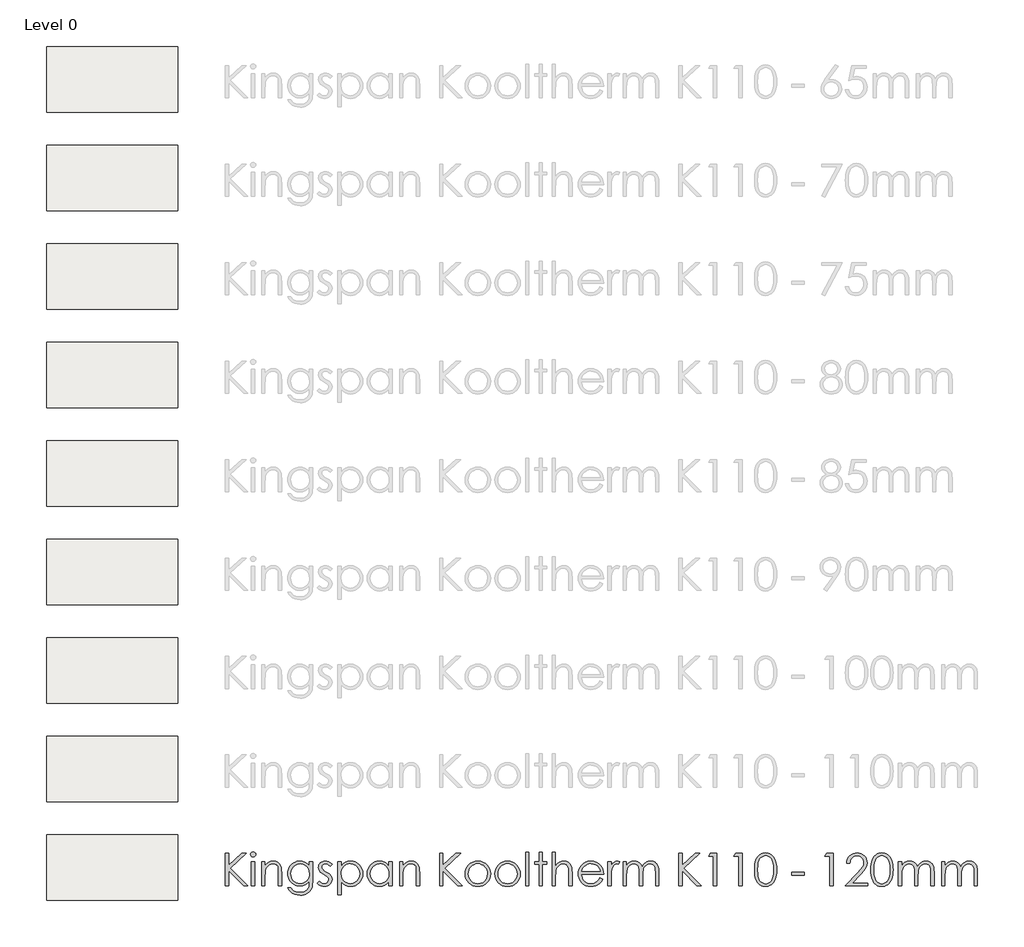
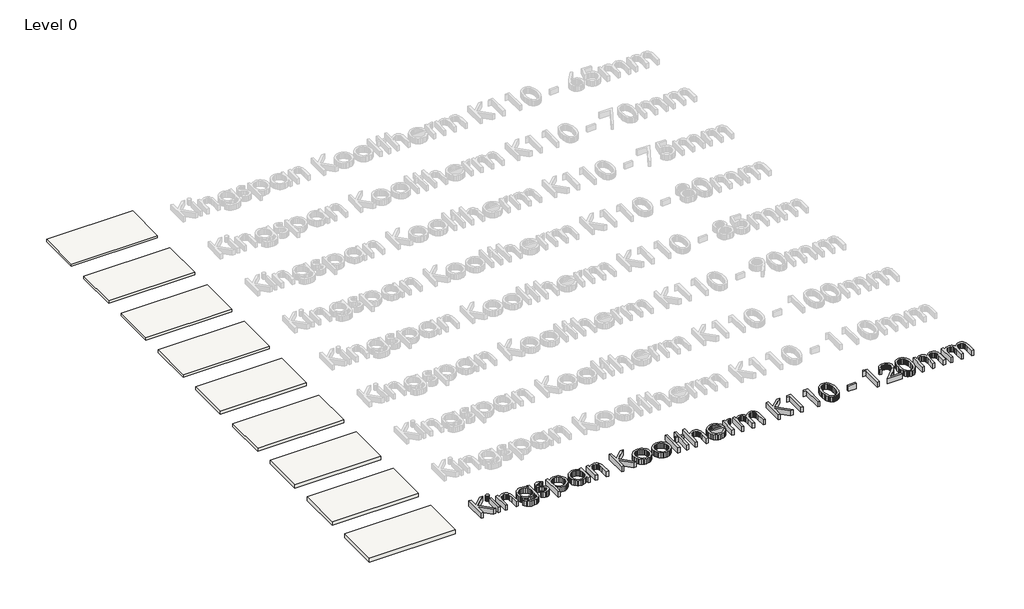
# One storey, part 1 of 9: 9 coverings, 1 proxy.
"""IFC4 building model written with IfcOpenShell, lengths in millimetres."""

from ifc_helpers import new_model, si_unit, origin, origin_with_axes, place, context, project, spatial, polyline, outline, extrude, element, save

model = new_model("IFC4")

# Units and contexts
model_context = context("Model", 3, world=origin())
ifc_project = project(units=[si_unit("LENGTHUNIT", "METRE", prefix="MILLI")], contexts=[model_context])

# Site, building, storey
site = spatial("IfcSite", under=ifc_project)
building = spatial("IfcBuilding", under=site)
storey = spatial("IfcBuildingStorey", under=building, Name="Level 0", Elevation=0.0)

# Proxy
placement = place(None, origin())
element("IfcBuildingElementProxy", 1, Name="600mm KI_CenturyGothic", ObjectType="600mm KI_CenturyGothic", at=placement, inside=storey, context=model_context, shape_type="SweptSolid", body=[
    extrude(outline(polyline([(-3852.2663848, -8499.1034017), (-3792.944575, -8499.1034017), (-3792.944575, -8718.316027), (-3555.1938841, -8499.1034017), (-3471.6181051, -8499.1034017), (-3760.9664119, -8766.0515459), (-3441.9572002, -9092.3214999), (-3520.8984627, -9092.3214999), (-3792.944575, -8814.0960325), (-3792.944575, -9092.3214999), (-3852.2663848, -9092.3214999), (-3852.2663848, -8499.1034017)])), origin_with_axes(), (0.0, 0.0, 1.0), 150.0),
    extrude(outline(polyline([(-3348.1854852, -8469.4424967), (-3329.145347, -8472.7252792), (-3313.1176445, -8482.5736265), (-3302.226531, -8497.0178693), (-3298.5961598, -8514.088338), (-3302.226531, -8530.9270809), (-3313.1176445, -8545.2940817), (-3329.145347, -8555.142429), (-3348.1854852, -8558.4252115), (-3366.9938975, -8555.142429), (-3382.9443581, -8545.2940817), (-3393.8354717, -8530.9270809), (-3397.4658428, -8514.088338), (-3393.8354717, -8497.0178693), (-3382.9443581, -8482.5736265), (-3366.9938975, -8472.7252792), (-3348.1854852, -8469.4424967)])), origin_with_axes(), (0.0, 0.0, 1.0), 150.0),
    extrude(outline(polyline([(-3377.6919062, -8647.4079262), (-3318.3700964, -8647.4079262), (-3318.3700964, -9092.3214999), (-3377.6919062, -9092.3214999), (-3377.6919062, -8647.4079262)])), origin_with_axes(), (0.0, 0.0, 1.0), 150.0),
    extrude(outline(polyline([(-3189.8395084, -8647.4079262), (-3130.5176986, -8647.4079262), (-3130.5176986, -8726.5036726), (-3096.9946967, -8686.9944204), (-3060.0730495, -8659.303185), (-3019.7141359, -8642.9665147), (-2975.879335, -8637.5209579), (-2953.4357238, -8639.0995901), (-2932.2955704, -8643.8354865), (-2912.4588747, -8651.7286472), (-2893.9256368, -8662.7790723), (-2877.212412, -8676.5039994), (-2862.835756, -8692.4206667), (-2841.0921499, -8730.8292213), (-2833.6238199, -8755.2087086), (-2828.2892984, -8785.5551357), (-2824.0216812, -8864.1488095), (-2824.0216812, -9092.3214999), (-2883.343491, -9092.3214999), (-2883.343491, -8879.1337458), (-2883.343491, -8776.092998), (-2884.7290183, -8755.2956057), (-2889.8125035, -8737.2403023), (-2898.2849788, -8721.9270877), (-2910.1464442, -8709.355962), (-2924.7403432, -8699.5558909), (-2941.4101193, -8692.5558401), (-2980.977303, -8686.9557994), (-3005.3471351, -8689.1137461), (-3028.4038541, -8695.5875862), (-3050.1474602, -8706.3773197), (-3070.5779533, -8721.4829466), (-3088.6622225, -8739.7651482), (-3103.3671568, -8760.084606), (-3114.6927562, -8782.44132), (-3122.6390208, -8806.8352901), (-3128.5480292, -8853.9142525), (-3130.5176986, -8928.4141035), (-3130.5176986, -9092.3214999), (-3189.8395084, -9092.3214999), (-3189.8395084, -8647.4079262)])), origin_with_axes(), (0.0, 0.0, 1.0), 150.0),
    extrude(outline(polyline([(-2319.7862977, -8647.4079262), (-2260.4644879, -8647.4079262), (-2260.4644879, -8998.395301), (-2264.5196897, -9078.6496765), (-2269.588692, -9109.4499001), (-2276.6852953, -9134.0321474), (-2289.9371156, -9162.6454585), (-2307.2924139, -9187.7732271), (-2328.7511904, -9209.4154531), (-2354.3134448, -9227.5721366), (-2383.3226209, -9241.9343098), (-2415.122162, -9252.1930049), (-2449.7120682, -9258.348222), (-2487.0923395, -9260.3999611), (-2541.0458345, -9256.3833802), (-2589.206184, -9244.3336376), (-2630.260275, -9225.5059147), (-2662.8949946, -9201.1553932), (-2690.2000204, -9167.8061856), (-2715.2650299, -9121.9824048), (-2655.94322, -9121.9824048), (-2642.4355358, -9143.151524), (-2627.0933555, -9161.3951046), (-2609.9166791, -9176.7131468), (-2590.9055067, -9189.1056506), (-2569.7894914, -9198.6691682), (-2546.2982864, -9205.5002523), (-2492.1903075, -9210.9651195), (-2438.5071593, -9205.6354257), (-2415.083541, -9198.9733084), (-2393.93856, -9189.6463441), (-2359.6624492, -9165.6047903), (-2336.8567664, -9136.1176798), (-2329.3884364, -9117.4782342), (-2324.0539149, -9093.7697863), (-2319.7862977, -9031.1458835), (-2319.7862977, -9008.4367532), (-2354.757586, -9044.2190818), (-2396.6420279, -9070.6165148), (-2443.392712, -9086.8952536), (-2492.9627269, -9092.3214999), (-2522.4063889, -9090.4242447), (-2550.9521133, -9084.7324793), (-2578.5999001, -9075.2462036), (-2605.3497494, -9061.9654175), (-2630.1540674, -9045.4742634), (-2651.9652601, -9026.3568832), (-2670.7833277, -9004.6132772), (-2686.6082702, -8980.2434451), (-2699.1456025, -8953.9280817), (-2708.1008399, -8926.3478816), (-2713.4739824, -8897.5028447), (-2715.2650299, -8867.392971), (-2713.3967404, -8837.1044753), (-2707.7918722, -8807.8780563), (-2698.4504251, -8779.713714), (-2685.3723991, -8752.6114483), (-2668.9971079, -8727.4257483), (-2649.7638648, -8705.0111029), (-2627.67267, -8685.367512), (-2602.7235235, -8668.4949758), (-2575.9833294, -8654.943843), (-2548.5189922, -8645.2644624), (-2520.3305117, -8639.456834), (-2491.4178881, -8637.5209579), (-2444.5320306, -8642.4644421), (-2400.8903346, -8657.2948945), (-2359.6045177, -8683.8661218), (-2319.7862977, -8724.0319306), (-2319.7862977, -8647.4079262)]), holes=[polyline([(-2484.1571458, -8686.9557994), (-2529.0154023, -8692.9806707), (-2570.5908765, -8711.0552847), (-2606.2187212, -8739.7699758), (-2633.2340897, -8777.7150788), (-2650.2659375, -8821.9940208), (-2655.94322, -8869.7102292), (-2653.0080263, -8905.6229036), (-2644.2024452, -8938.2817613), (-2629.5264766, -8967.6868023), (-2608.9801206, -8993.8380266), (-2583.7606272, -9015.296803), (-2555.0652466, -9030.6245004), (-2522.8939786, -9039.8211189), (-2487.2468234, -9042.8866584), (-2451.3244937, -9039.845257), (-2419.1001219, -9030.7210528), (-2390.573708, -9015.5140459), (-2365.7452519, -8994.2242363), (-2345.6382095, -8967.9812872), (-2331.2760363, -8937.9148621), (-2322.6587323, -8904.024961), (-2319.7862977, -8866.3115838), (-2325.0773706, -8817.6105407), (-2340.9505892, -8774.3936754), (-2366.4983608, -8738.1672056), (-2400.8130926, -8710.4373492), (-2440.9982119, -8692.8261869), (-2484.1571458, -8686.9557994)])]), origin_with_axes(), (0.0, 0.0, 1.0), 150.0),
    extrude(outline(polyline([(-1904.5336289, -8698.6965743), (-1940.9918246, -8736.390641), (-1962.9575012, -8714.7628978), (-1984.6721416, -8699.3145098), (-2006.1357456, -8690.045477), (-2027.3483133, -8686.9557994), (-2052.181597, -8691.6289368), (-2073.2300256, -8705.6483489), (-2087.5970264, -8725.8857371), (-2092.3860267, -8749.212803), (-2088.4466878, -8770.7633042), (-2076.628671, -8791.2324183), (-2052.0657341, -8813.400855), (-2010.2006027, -8839.122421), (-1958.3326401, -8871.9888664), (-1939.8428507, -8887.8138088), (-1926.315856, -8903.2332311), (-1909.9791857, -8935.9065716), (-1904.5336289, -8972.4420092), (-1906.9474396, -8998.5884059), (-1914.1888714, -9022.6492701), (-1926.2579245, -9044.624602), (-1943.1545989, -9064.5144015), (-1963.6719892, -9081.0055557), (-1986.6031901, -9092.7849515), (-2011.9482016, -9099.852589), (-2039.7070237, -9102.2084682), (-2077.4397114, -9098.3270607), (-2113.3958344, -9086.6828383), (-2145.4512394, -9068.2027042), (-2171.4817731, -9043.8135617), (-2135.7959969, -9003.3387852), (-2114.0041146, -9024.9665283), (-2091.5749863, -9040.4149163), (-2068.5086121, -9049.6839491), (-2044.8049918, -9052.7736267), (-2013.637869, -9047.1349651), (-1987.4914724, -9030.2189802), (-1969.7644472, -9005.6560434), (-1963.8554388, -8977.0765256), (-1967.7561567, -8953.2860081), (-1979.4583106, -8932.2762005), (-2005.0253927, -8910.5712154), (-2050.2119275, -8883.7682622), (-2099.762632, -8853.1032121), (-2117.441381, -8837.9444814), (-2130.3890611, -8822.9016136), (-2146.3781427, -8790.7689666), (-2151.7078365, -8754.310771), (-2149.5305794, -8730.2643896), (-2142.9988078, -8708.3325063), (-2132.1125219, -8688.5151211), (-2116.8717217, -8670.812234), (-2098.309518, -8656.2473007), (-2077.4590218, -8645.8437769), (-2054.3202332, -8639.6016627), (-2028.8931521, -8637.5209579), (-1997.9481, -8641.3444339), (-1966.9064954, -8652.814862), (-1935.7683384, -8671.9322421), (-1904.5336289, -8698.6965743)])), origin_with_axes(), (0.0, 0.0, 1.0), 150.0),
    extrude(outline(polyline([(-1795.7769776, -8647.4079262), (-1736.4551678, -8647.4079262), (-1736.4551678, -8728.5119631), (-1700.9238754, -8688.2689124), (-1660.4490989, -8659.9211205), (-1614.9922173, -8643.1209986), (-1564.5146096, -8637.5209579), (-1520.0618732, -8641.7596094), (-1478.9305402, -8654.4755637), (-1441.1206107, -8675.668821), (-1406.6320845, -8705.3393811), (-1377.9077381, -8740.9768811), (-1357.3903478, -8780.070958), (-1345.0799137, -8822.6216116), (-1340.9764356, -8868.628842), (-1345.0412927, -8915.5291824), (-1357.235864, -8958.7508754), (-1377.5601494, -8998.293921), (-1406.014149, -9034.1583192), (-1440.2130179, -9063.9302594), (-1477.7719111, -9085.1959309), (-1518.6908288, -9097.9553339), (-1562.9697708, -9102.2084682), (-1612.6170277, -9096.743601), (-1658.0545988, -9080.3489992), (-1699.3211052, -9053.1019049), (-1736.4551678, -9015.07956), (-1736.4551678, -9250.5129928), (-1795.7769776, -9250.5129928), (-1795.7769776, -8647.4079262)]), holes=[polyline([(-1568.5311905, -8686.9557994), (-1602.5852307, -8690.2530647), (-1633.8392507, -8700.1448607), (-1662.2932503, -8716.6311872), (-1687.9472295, -8739.7120444), (-1709.1694525, -8767.6977647), (-1724.3281832, -8798.8986808), (-1733.4234216, -8833.3147926), (-1736.4551678, -8870.9461002), (-1731.048232, -8919.8016272), (-1714.8274246, -8963.4819442), (-1688.5265441, -9000.3263495), (-1652.8793888, -9028.6741414), (-1611.4390881, -9046.7487554), (-1567.7587711, -9052.7736267), (-1525.0632888, -9046.7101344), (-1485.0326535, -9028.5196576), (-1450.2544701, -8999.4187567), (-1423.3163435, -8960.6239924), (-1406.05277, -8915.9588407), (-1400.2982454, -8869.2467775), (-1405.9948385, -8822.3029886), (-1423.0846177, -8777.8695627), (-1449.8103289, -8739.5189395), (-1484.414718, -8710.8235589), (-1524.7157001, -8692.9227393), (-1568.5311905, -8686.9557994)])]), origin_with_axes(), (0.0, 0.0, 1.0), 150.0),
    extrude(outline(polyline([(-807.0801472, -8647.4079262), (-807.0801472, -9092.3214999), (-866.401957, -9092.3214999), (-866.401957, -9016.4699149), (-903.4780882, -9054.3184655), (-944.8797679, -9081.0441767), (-990.4525125, -9096.9173953), (-1040.0418379, -9102.2084682), (-1084.3159523, -9097.9553339), (-1125.2203871, -9085.1959309), (-1162.7551422, -9063.9302594), (-1196.9202178, -9034.1583192), (-1225.340424, -8998.293921), (-1245.6405713, -8958.7508754), (-1257.8206597, -8915.5291824), (-1261.8806892, -8868.628842), (-1257.7820388, -8822.6216116), (-1245.4860875, -8780.070958), (-1224.9928353, -8740.9768811), (-1196.3022822, -8705.3393811), (-1161.8475494, -8675.668821), (-1124.061758, -8654.4755637), (-1082.9449079, -8641.7596094), (-1038.4969991, -8637.5209579), (-987.7490446, -8643.1209986), (-942.0990581, -8659.9211205), (-921.2051134, -8672.6081091), (-901.6242816, -8688.2689124), (-866.401957, -8728.5119631), (-866.401957, -8647.4079262), (-807.0801472, -8647.4079262)]), holes=[polyline([(-1034.3259343, -8686.9557994), (-1078.1414247, -8692.9227393), (-1118.4424068, -8710.8235589), (-1153.0467959, -8739.5189395), (-1179.7725071, -8777.8695627), (-1196.8622863, -8822.3029886), (-1202.5588794, -8869.2467775), (-1196.8043548, -8915.9588407), (-1179.5407813, -8960.6239924), (-1152.6026548, -8999.4187567), (-1117.8244713, -9028.5196576), (-1077.6779731, -9046.7101344), (-1034.6349021, -9052.7736267), (-991.0125165, -9046.7487554), (-949.7460102, -9028.6741414), (-914.2726493, -9000.3263495), (-888.0297002, -8963.4819442), (-871.8088928, -8919.8016272), (-866.401957, -8870.9461002), (-869.4337032, -8833.3147926), (-878.5289416, -8798.8986808), (-893.6876723, -8767.6977647), (-914.9098953, -8739.7120444), (-940.5638746, -8716.6311872), (-969.0178742, -8700.1448607), (-1000.2718941, -8690.2530647), (-1034.3259343, -8686.9557994)])]), origin_with_axes(), (0.0, 0.0, 1.0), 150.0),
    extrude(outline(polyline([(-668.662591, -8647.4079262), (-609.3407811, -8647.4079262), (-609.3407811, -8726.5036726), (-575.8177792, -8686.9944204), (-538.896132, -8659.303185), (-498.5372184, -8642.9665147), (-454.7024175, -8637.5209579), (-432.2588064, -8639.0995901), (-411.1186529, -8643.8354865), (-391.2819572, -8651.7286472), (-372.7487193, -8662.7790723), (-356.0354946, -8676.5039994), (-341.6588385, -8692.4206667), (-319.9152324, -8730.8292213), (-312.4469024, -8755.2087086), (-307.1123809, -8785.5551357), (-302.8447637, -8864.1488095), (-302.8447637, -9092.3214999), (-362.1665735, -9092.3214999), (-362.1665735, -8879.1337458), (-362.1665735, -8776.092998), (-363.5521008, -8755.2956057), (-368.635586, -8737.2403023), (-377.1080613, -8721.9270877), (-388.9695267, -8709.355962), (-403.5634257, -8699.5558909), (-420.2332018, -8692.5558401), (-459.8003855, -8686.9557994), (-484.1702176, -8689.1137461), (-507.2269366, -8695.5875862), (-528.9705427, -8706.3773197), (-549.4010358, -8721.4829466), (-567.485305, -8739.7651482), (-582.1902393, -8760.084606), (-593.5158387, -8782.44132), (-601.4621033, -8806.8352901), (-607.3711117, -8853.9142525), (-609.3407811, -8928.4141035), (-609.3407811, -9092.3214999), (-668.662591, -9092.3214999), (-668.662591, -8647.4079262)])), origin_with_axes(), (0.0, 0.0, 1.0), 150.0),
    extrude(outline(polyline([(62.9730635, -8499.1034017), (122.2948734, -8499.1034017), (122.2948734, -8718.316027), (360.0455643, -8499.1034017), (443.6213432, -8499.1034017), (154.2730365, -8766.0515459), (473.2822481, -9092.3214999), (394.3409856, -9092.3214999), (122.2948734, -8814.0960325), (122.2948734, -9092.3214999), (62.9730635, -9092.3214999), (62.9730635, -8499.1034017)])), origin_with_axes(), (0.0, 0.0, 1.0), 150.0),
    extrude(outline(polyline([(760.1588128, -8637.5209579), (809.4681362, -8642.1458191), (854.3553585, -8656.0204025), (894.8204798, -8679.1447083), (930.8635, -8711.5187363), (957.7630055, -8746.7507161), (976.9769381, -8785.091684), (988.5052976, -8826.54164), (992.3480841, -8871.1005841), (988.283227, -8915.9153921), (976.0886558, -8957.8239721), (955.7643703, -8996.8263241), (927.3103707, -9032.9224481), (892.4742558, -9063.2350819), (853.0036246, -9084.8869632), (808.8984769, -9097.8780919), (760.1588128, -9102.2084682), (711.2839754, -9097.8780919), (667.0822753, -9084.8869632), (627.5537126, -9063.2350819), (592.6982872, -9032.9224481), (564.2442876, -8996.8263241), (543.9200022, -8957.8239721), (531.7254309, -8915.9153921), (527.6605738, -8871.1005841), (531.5033603, -8826.7347449), (543.0317198, -8785.4006518), (562.2456524, -8747.0983049), (589.145158, -8711.8277041), (625.2074886, -8679.3185026), (665.7305413, -8656.0976445), (710.7143161, -8642.1651295), (760.1588128, -8637.5209579)]), holes=[polyline([(760.004329, -8686.9557994), (725.7282181, -8690.3303067), (693.9624704, -8700.4538284), (664.7070856, -8717.3263647), (637.962064, -8740.9479154), (615.6584538, -8769.3584664), (599.7273037, -8800.5980035), (590.1686137, -8834.6665266), (586.9823836, -8871.5640357), (592.7948396, -8919.2995546), (610.2322075, -8963.6364281), (637.5758543, -9001.4270471), (673.1071466, -9029.5238028), (714.6439998, -9046.9611707), (760.004329, -9052.7736267), (805.3646581, -9046.9611707), (846.9015113, -9029.5238028), (882.4328037, -9001.4270471), (909.7764504, -8963.6364281), (927.2138183, -8919.2995546), (933.0262743, -8871.5640357), (929.8255614, -8834.6665266), (920.2234227, -8800.5980035), (904.2198583, -8769.3584664), (881.8148681, -8740.9479154), (854.9974321, -8717.3263647), (825.7565303, -8700.4538284), (794.0921625, -8690.3303067), (760.004329, -8686.9557994)])]), origin_with_axes(), (0.0, 0.0, 1.0), 150.0),
    extrude(outline(polyline([(1303.9420695, -8637.5209579), (1353.2513929, -8642.1458191), (1398.1386152, -8656.0204025), (1438.6037365, -8679.1447083), (1474.6467567, -8711.5187363), (1501.5462622, -8746.7507161), (1520.7601948, -8785.091684), (1532.2885543, -8826.54164), (1536.1313408, -8871.1005841), (1532.0664837, -8915.9153921), (1519.8719125, -8957.8239721), (1499.547627, -8996.8263241), (1471.0936274, -9032.9224481), (1436.2575126, -9063.2350819), (1396.7868813, -9084.8869632), (1352.6817336, -9097.8780919), (1303.9420695, -9102.2084682), (1255.0672321, -9097.8780919), (1210.865532, -9084.8869632), (1171.3369693, -9063.2350819), (1136.4815439, -9032.9224481), (1108.0275443, -8996.8263241), (1087.7032589, -8957.8239721), (1075.5086876, -8915.9153921), (1071.4438305, -8871.1005841), (1075.286617, -8826.7347449), (1086.8149766, -8785.4006518), (1106.0289091, -8747.0983049), (1132.9284147, -8711.8277041), (1168.9907453, -8679.3185026), (1209.5137981, -8656.0976445), (1254.4975728, -8642.1651295), (1303.9420695, -8637.5209579)]), holes=[polyline([(1303.7875857, -8686.9557994), (1269.5114748, -8690.3303067), (1237.7457271, -8700.4538284), (1208.4903423, -8717.3263647), (1181.7453207, -8740.9479154), (1159.4417105, -8769.3584664), (1143.5105604, -8800.5980035), (1133.9518704, -8834.6665266), (1130.7656404, -8871.5640357), (1136.5780963, -8919.2995546), (1154.0154643, -8963.6364281), (1181.359111, -9001.4270471), (1216.8904033, -9029.5238028), (1258.4272565, -9046.9611707), (1303.7875857, -9052.7736267), (1349.1479149, -9046.9611707), (1390.684768, -9029.5238028), (1426.2160604, -9001.4270471), (1453.5597071, -8963.6364281), (1470.997075, -8919.2995546), (1476.809531, -8871.5640357), (1473.6088181, -8834.6665266), (1464.0066795, -8800.5980035), (1448.003115, -8769.3584664), (1425.5981249, -8740.9479154), (1398.7806889, -8717.3263647), (1369.539787, -8700.4538284), (1337.8754193, -8690.3303067), (1303.7875857, -8686.9557994)])]), origin_with_axes(), (0.0, 0.0, 1.0), 150.0),
    extrude(outline(polyline([(1635.0010238, -8479.3294651), (1694.3228337, -8479.3294651), (1694.3228337, -9092.3214999), (1635.0010238, -9092.3214999), (1635.0010238, -8479.3294651)])), origin_with_axes(), (0.0, 0.0, 1.0), 150.0),
    extrude(outline(polyline([(1882.1752314, -8479.3294651), (1941.4970413, -8479.3294651), (1941.4970413, -8647.4079262), (2020.5927877, -8647.4079262), (2020.5927877, -8696.8427677), (1941.4970413, -8696.8427677), (1941.4970413, -9092.3214999), (1882.1752314, -9092.3214999), (1882.1752314, -8696.8427677), (1803.079485, -8696.8427677), (1803.079485, -8647.4079262), (1882.1752314, -8647.4079262), (1882.1752314, -8479.3294651)])), origin_with_axes(), (0.0, 0.0, 1.0), 150.0),
    extrude(outline(polyline([(2119.4624707, -8479.3294651), (2178.7842806, -8479.3294651), (2178.7842806, -8728.0485114), (2212.5583188, -8688.3461544), (2249.6151394, -8660.0756044), (2289.9161216, -8643.1596195), (2333.4226442, -8637.5209579), (2355.8662553, -8639.0995901), (2377.0064088, -8643.8354865), (2396.8431044, -8651.7286472), (2415.3763424, -8662.7790723), (2432.0895671, -8676.4895166), (2446.4662232, -8692.3627352), (2468.2098293, -8730.5974955), (2475.6781593, -8754.9045684), (2481.0126808, -8785.2654784), (2485.280298, -8864.1488095), (2485.280298, -9092.3214999), (2425.9584882, -9092.3214999), (2425.9584882, -8879.1337458), (2424.5681332, -8814.752589), (2420.3970685, -8776.092998), (2406.879729, -8737.2403023), (2397.1665551, -8721.9270877), (2385.4837117, -8709.355962), (2371.840854, -8699.5558909), (2356.2476374, -8692.5558401), (2319.2101273, -8686.9557994), (2296.3416854, -8689.1137461), (2274.6994594, -8695.5875862), (2254.2834492, -8706.3773197), (2235.0936547, -8721.4829466), (2218.1052556, -8739.7651482), (2204.2934312, -8760.084606), (2193.6581816, -8782.44132), (2186.1995068, -8806.8352901), (2180.6380871, -8853.6825267), (2178.7842806, -8928.4141035), (2178.7842806, -9092.3214999), (2119.4624707, -9092.3214999), (2119.4624707, -8479.3294651)])), origin_with_axes(), (0.0, 0.0, 1.0), 150.0),
    extrude(outline(polyline([(2991.0605203, -8944.0169753), (3038.950523, -8969.1978477), (3013.3255094, -9011.0822896), (2984.0315038, -9044.0452875), (2950.952643, -9069.1296074), (2913.9730643, -9087.3780157), (2872.4941426, -9098.5008551), (2825.9172528, -9102.2084682), (2774.4258447, -9097.7767119), (2728.8627554, -9084.481443), (2689.227985, -9062.3226615), (2655.5215335, -9031.3003674), (2628.6220279, -8994.6973431), (2609.4080954, -8955.7963712), (2597.8797358, -8914.5974515), (2594.0369493, -8871.1005841), (2597.3197318, -8830.2202874), (2607.1680791, -8791.618628), (2623.5819913, -8755.2956057), (2646.5614684, -8721.2512207), (2682.7493173, -8684.6192308), (2724.5758277, -8658.4535236), (2772.0409998, -8642.7540993), (2825.1448334, -8637.5209579), (2879.7935059, -8642.8892727), (2928.6490329, -8658.9942172), (2971.7114143, -8685.8357913), (3008.9806503, -8723.4139951), (3030.4539096, -8755.585263), (3045.9022976, -8791.541386), (3055.3258143, -8831.2823641), (3058.7244596, -8874.8081972), (2653.3587591, -8874.8081972), (2657.095338, -8912.0629503), (2666.6057518, -8945.8128504), (2681.8900007, -8976.0578975), (2702.9480845, -9002.7980916), (2728.3124066, -9024.6623882), (2756.5153699, -9040.2797429), (2787.5569744, -9049.6501557), (2821.4372203, -9052.7736267), (2854.9602222, -9049.761191), (2887.5563208, -9040.7238841), (2917.2944677, -9026.6851615), (2942.2436143, -9008.668479), (2965.725164, -8982.5027719), (2991.0605203, -8944.0169753)]), holes=[polyline([(2999.4026498, -8825.3733557), (2984.9777175, -8782.8516678), (2965.1844704, -8749.8307385), (2939.0766947, -8724.3022774), (2905.7081767, -8704.257994), (2867.7630738, -8691.2813481), (2827.9255433, -8686.9557994), (2795.503239, -8689.6689226), (2765.4368139, -8697.808292), (2737.726268, -8711.3739077), (2712.3716012, -8730.3657696), (2695.8321708, -8748.179692), (2681.4362043, -8769.9522638), (2669.1837016, -8795.683485), (2659.0746627, -8825.3733557), (2999.4026498, -8825.3733557)])]), origin_with_axes(), (0.0, 0.0, 1.0), 150.0),
    extrude(outline(polyline([(3137.820206, -8647.4079262), (3197.1420159, -8647.4079262), (3197.1420159, -8711.8277041), (3222.6897875, -8678.7874643), (3249.589293, -8655.6728138), (3277.7632906, -8642.0589219), (3307.1345382, -8637.5209579), (3330.4616041, -8641.305813), (3355.3335087, -8652.6603781), (3325.8270877, -8694.6799934), (3297.2475699, -8686.9557994), (3270.8308265, -8692.9034288), (3245.3409863, -8710.7463169), (3223.2884125, -8741.1023993), (3207.183468, -8784.5896114), (3199.6523789, -8842.7141712), (3197.1420159, -8940.1548783), (3197.1420159, -9092.3214999), (3137.820206, -9092.3214999), (3137.820206, -8647.4079262)])), origin_with_axes(), (0.0, 0.0, 1.0), 150.0),
    extrude(outline(polyline([(3414.6553185, -8647.4079262), (3473.9771284, -8647.4079262), (3473.9771284, -8723.5684789), (3503.5607913, -8687.0716623), (3533.9168737, -8661.9294109), (3577.3268439, -8643.6230712), (3622.8995884, -8637.5209579), (3653.7384329, -8640.668567), (3682.9165757, -8650.1113941), (3708.6767627, -8664.7873627), (3729.2617397, -8683.634396), (3746.0425511, -8709.0663047), (3760.3902414, -8743.4968994), (3775.16759, -8719.0981017), (3791.6925376, -8697.808292), (3809.965084, -8679.6274704), (3829.9852293, -8664.5556369), (3851.2798666, -8652.7279648), (3873.375889, -8644.2796277), (3896.2732965, -8639.2106253), (3919.9720892, -8637.5209579), (3962.3006723, -8643.3334139), (3981.4952943, -8650.5989839), (3999.3768034, -8660.7707818), (4015.4914031, -8673.53984), (4029.385297, -8688.5971907), (4050.5109676, -8725.5767694), (4057.8103309, -8748.9521114), (4063.0241619, -8777.5219739), (4067.1952266, -8850.2452603), (4067.1952266, -9092.3214999), (4007.8734168, -9092.3214999), (4007.8734168, -8846.6921311), (4005.4209852, -8785.5744462), (3998.0636904, -8747.1272706), (3984.7587663, -8722.6608861), (3964.4634466, -8703.4855746), (3938.3942919, -8691.0882432), (3907.7678627, -8686.9557994), (3888.1194443, -8688.5054659), (3869.3399976, -8693.1544651), (3834.3880198, -8711.7504621), (3805.6540182, -8740.6968791), (3785.8800816, -8777.9468046), (3779.1889985, -8802.1042213), (3774.4096535, -8833.1747916), (3770.5861775, -8916.0553931), (3770.5861775, -9092.3214999), (3711.2643677, -9092.3214999), (3711.2643677, -8861.9860352), (3708.850557, -8793.530366), (3701.6091252, -8751.2983353), (3688.3621325, -8725.0553863), (3667.9316394, -8704.5669617), (3641.6114484, -8691.35859), (3610.6953619, -8686.9557994), (3573.7544042, -8692.9999812), (3539.2465676, -8711.1325266), (3510.2808401, -8739.499629), (3489.9662099, -8776.2474819), (3477.9743988, -8828.0768236), (3473.9771284, -8901.6883923), (3473.9771284, -9092.3214999), (3414.6553185, -9092.3214999), (3414.6553185, -8647.4079262)])), origin_with_axes(), (0.0, 0.0, 1.0), 150.0),
    extrude(outline(polyline([(4433.0130538, -8499.1034017), (4492.3348637, -8499.1034017), (4492.3348637, -8718.316027), (4730.0855546, -8499.1034017), (4813.6613335, -8499.1034017), (4524.3130268, -8766.0515459), (4843.3222385, -9092.3214999), (4764.3809759, -9092.3214999), (4492.3348637, -8814.0960325), (4492.3348637, -9092.3214999), (4433.0130538, -9092.3214999), (4433.0130538, -8499.1034017)])), origin_with_axes(), (0.0, 0.0, 1.0), 150.0),
    extrude(outline(polyline([(5010.6282802, -8499.1034017), (5125.1008351, -8499.1034017), (5125.1008351, -9092.3214999), (5065.7790253, -9092.3214999), (5065.7790253, -8548.5382432), (4976.7963106, -8548.5382432), (5010.6282802, -8499.1034017)])), origin_with_axes(), (0.0, 0.0, 1.0), 150.0),
    extrude(outline(polyline([(5475.3157905, -8499.1034017), (5589.7883454, -8499.1034017), (5589.7883454, -9092.3214999), (5530.4665356, -9092.3214999), (5530.4665356, -8548.5382432), (5441.4838208, -8548.5382432), (5475.3157905, -8499.1034017)])), origin_with_axes(), (0.0, 0.0, 1.0), 150.0),
    extrude(outline(polyline([(5817.1886164, -8795.8669347), (5818.7672485, -8741.4355052), (5823.503145, -8693.5406748), (5831.3963057, -8652.1824436), (5842.4467307, -8617.3608116), (5856.374418, -8587.7192172), (5872.8993655, -8561.9010988), (5892.0215733, -8539.9064564), (5913.7410412, -8521.73529), (5937.4350063, -8507.5082902), (5962.4807053, -8497.3461475), (5988.8781382, -8491.2488619), (6016.6273051, -8489.2164334), (6044.8302684, -8491.2633448), (6071.6621873, -8497.404079), (6097.1230617, -8507.638636), (6121.2128917, -8521.9670159), (6143.3958113, -8540.3843909), (6163.1359546, -8562.8859335), (6180.4333215, -8589.4716437), (6195.2879121, -8620.1415214), (6207.2169642, -8655.6583309), (6215.7377157, -8696.7848363), (6220.8501666, -8743.5210375), (6222.5543169, -8795.8669347), (6220.8743047, -8848.0535203), (6215.8342681, -8894.6207548), (6207.4342071, -8935.5686382), (6195.6741218, -8970.8971704), (6180.9643599, -9001.4222195), (6163.7152692, -9027.9596535), (6143.9268497, -9050.5094723), (6121.5991014, -9069.071676), (6097.3403047, -9083.5690226), (6071.7587397, -9093.9242701), (6044.8544066, -9100.1374187), (6016.6273051, -9102.2084682), (5988.9022764, -9100.2001778), (5962.5772577, -9094.1753064), (5937.6522492, -9084.1338543), (5914.1272509, -9070.0758212), (5892.5526116, -9052.0398282), (5873.4786801, -9030.0644964), (5856.9054564, -9004.1498255), (5842.8329404, -8974.2958158), (5831.6135487, -8939.2762513), (5823.5996974, -8897.8649163), (5818.7913866, -8850.0618107), (5817.1886164, -8795.8669347)]), holes=[polyline([(5876.5104262, -8795.7124508), (5880.8939063, -8884.038609), (5886.3732564, -8919.0195525), (5894.0443466, -8947.8790723), (5903.8589006, -8972.1185586), (5915.7686422, -8993.2394015), (5929.7735714, -9011.2416011), (5945.8736882, -9026.1251574), (5981.1732547, -9046.1115094), (5999.5761469, -9051.1080973), (6018.4811117, -9052.7736267), (6037.4729737, -9051.1418907), (6055.8275896, -9046.2466828), (6090.6250835, -9026.665851), (6106.3824393, -9011.9898824), (6120.1315046, -8994.0697524), (6131.8722794, -8972.9054608), (6141.6047639, -8948.4970078), (6151.0669015, -8915.1381451), (6157.8255712, -8878.5544313), (6163.232507, -8795.7124508), (6158.4048858, -8714.1063413), (6152.3703592, -8679.4150551), (6143.9220221, -8648.7982811), (6133.3398763, -8622.135329), (6120.903924, -8599.3055082), (6106.6141651, -8580.3088186), (6090.4705997, -8565.1452603), (6055.402759, -8545.2747712), (6037.1736612, -8540.307149), (6018.4811117, -8538.6512749), (5999.4651116, -8540.307149), (5981.0380814, -8545.2747712), (5945.9509302, -8565.1452603), (5930.0052972, -8579.9564022), (5916.0776099, -8597.8958428), (5904.1678683, -8618.9635819), (5894.2760724, -8643.1596195), (5886.5036022, -8672.0143117), (5880.9518378, -8707.0580143), (5876.5104262, -8795.7124508)])]), origin_with_axes(), (0.0, 0.0, 1.0), 150.0),
    extrude(outline(polyline([(6499.3894294, -8845.1472923), (6726.7897004, -8845.1472923), (6726.7897004, -8894.5821338), (6499.3894294, -8894.5821338), (6499.3894294, -8845.1472923)])), origin_with_axes(), (0.0, 0.0, 1.0), 150.0),
    extrude(outline(polyline([(7136.3264656, -8499.1034017), (7250.7990205, -8499.1034017), (7250.7990205, -9092.3214999), (7191.4772106, -9092.3214999), (7191.4772106, -8548.5382432), (7102.4944959, -8548.5382432), (7136.3264656, -8499.1034017)])), origin_with_axes(), (0.0, 0.0, 1.0), 150.0),
    extrude(outline(polyline([(7557.2950379, -8677.0688311), (7497.9732281, -8677.0688311), (7502.4580882, -8637.8106152), (7513.5954104, -8602.2213914), (7531.3851947, -8570.3011597), (7555.827441, -8542.0499202), (7585.2228268, -8518.9352697), (7617.8720292, -8502.4248051), (7653.7750484, -8492.5185263), (7692.9318843, -8489.2164334), (7731.403198, -8492.5136987), (7766.0220699, -8502.4054946), (7796.7885001, -8518.8918211), (7823.7024885, -8541.9726783), (7845.5667851, -8569.533568), (7861.1841398, -8599.459992), (7870.5545527, -8631.7519505), (7873.6780236, -8666.4094434), (7867.5952208, -8715.2070389), (7849.3468125, -8760.8763359), (7813.5644839, -8812.763609), (7754.8799201, -8880.215133), (7602.095363, -9042.8866584), (7883.5649919, -9042.8866584), (7883.5649919, -9092.3214999), (7478.1992914, -9092.3214999), (7704.2092075, -8851.6356152), (7760.9434124, -8786.1151397), (7793.6553739, -8740.0210121), (7809.1810038, -8702.6552237), (7814.3562138, -8663.3197658), (7812.1065423, -8638.7133804), (7805.3575278, -8615.8739043), (7794.1091703, -8594.8013375), (7778.3614698, -8575.4956802), (7759.3502973, -8559.3762529), (7738.311524, -8547.8623762), (7715.2451497, -8540.9540502), (7690.1511745, -8538.6512749), (7663.8165006, -8540.9250845), (7639.8087401, -8547.7465133), (7618.1278932, -8559.1155613), (7598.7739596, -8575.0322286), (7582.5386694, -8595.0523738), (7570.2137523, -8618.731856), (7561.7992085, -8646.0706751), (7557.2950379, -8677.0688311)])), origin_with_axes(), (0.0, 0.0, 1.0), 150.0),
    extrude(outline(polyline([(7942.8868017, -8795.8669347), (7944.4654339, -8741.4355052), (7949.2013303, -8693.5406748), (7957.094491, -8652.1824436), (7968.1449161, -8617.3608116), (7982.0726034, -8587.7192172), (7998.5975509, -8561.9010988), (8017.7197586, -8539.9064564), (8039.4392266, -8521.73529), (8063.1331916, -8507.5082902), (8088.1788906, -8497.3461475), (8114.5763236, -8491.2488619), (8142.3254905, -8489.2164334), (8170.5284538, -8491.2633448), (8197.3603726, -8497.404079), (8222.8212471, -8507.638636), (8246.9110771, -8521.9670159), (8269.0939967, -8540.3843909), (8288.8341399, -8562.8859335), (8306.1315069, -8589.4716437), (8320.9860974, -8620.1415214), (8332.9151495, -8655.6583309), (8341.435901, -8696.7848363), (8346.5483519, -8743.5210375), (8348.2525022, -8795.8669347), (8346.57249, -8848.0535203), (8341.5324534, -8894.6207548), (8333.1323925, -8935.5686382), (8321.3723071, -8970.8971704), (8306.6625452, -9001.4222195), (8289.4134545, -9027.9596535), (8269.625035, -9050.5094723), (8247.2972868, -9069.071676), (8223.03849, -9083.5690226), (8197.4569251, -9093.9242701), (8170.5525919, -9100.1374187), (8142.3254905, -9102.2084682), (8114.6004617, -9100.2001778), (8088.2754431, -9094.1753064), (8063.3504346, -9084.1338543), (8039.8254363, -9070.0758212), (8018.2507969, -9052.0398282), (7999.1768654, -9030.0644964), (7982.6036417, -9004.1498255), (7968.5311258, -8974.2958158), (7957.311734, -8939.2762513), (7949.2978827, -8897.8649163), (7944.489572, -8850.0618107), (7942.8868017, -8795.8669347)]), holes=[polyline([(8002.2086116, -8795.7124508), (8006.5920916, -8884.038609), (8012.0714418, -8919.0195525), (8019.7425319, -8947.8790723), (8029.5570859, -8972.1185586), (8041.4668275, -8993.2394015), (8055.4717567, -9011.2416011), (8071.5718736, -9026.1251574), (8106.8714401, -9046.1115094), (8125.2743323, -9051.1080973), (8144.179297, -9052.7736267), (8163.171159, -9051.1418907), (8181.525775, -9046.2466828), (8216.3232689, -9026.665851), (8232.0806246, -9011.9898824), (8245.8296899, -8994.0697524), (8257.5704648, -8972.9054608), (8267.3029492, -8948.4970078), (8276.7650868, -8915.1381451), (8283.5237566, -8878.5544313), (8288.9306924, -8795.7124508), (8284.1030711, -8714.1063413), (8278.0685446, -8679.4150551), (8269.6202074, -8648.7982811), (8259.0380616, -8622.135329), (8246.6021093, -8599.3055082), (8232.3123504, -8580.3088186), (8216.168785, -8565.1452603), (8181.1009443, -8545.2747712), (8162.8718465, -8540.307149), (8144.179297, -8538.6512749), (8125.163297, -8540.307149), (8106.7362667, -8545.2747712), (8071.6491155, -8565.1452603), (8055.7034825, -8579.9564022), (8041.7757953, -8597.8958428), (8029.8660536, -8618.9635819), (8019.9742577, -8643.1596195), (8012.2017875, -8672.0143117), (8006.6500231, -8707.0580143), (8002.2086116, -8795.7124508)])]), origin_with_axes(), (0.0, 0.0, 1.0), 150.0),
    extrude(outline(polyline([(8447.1221852, -8647.4079262), (8506.4439951, -8647.4079262), (8506.4439951, -8723.5684789), (8536.027658, -8687.0716623), (8566.3837404, -8661.9294109), (8609.7937106, -8643.6230712), (8655.3664551, -8637.5209579), (8686.2052996, -8640.668567), (8715.3834424, -8650.1113941), (8741.1436294, -8664.7873627), (8761.7286063, -8683.634396), (8778.5094178, -8709.0663047), (8792.8571081, -8743.4968994), (8807.6344567, -8719.0981017), (8824.1594042, -8697.808292), (8842.4319506, -8679.6274704), (8862.4520959, -8664.5556369), (8883.7467332, -8652.7279648), (8905.8427557, -8644.2796277), (8928.7401632, -8639.2106253), (8952.4389559, -8637.5209579), (8994.7675389, -8643.3334139), (9013.962161, -8650.5989839), (9031.8436701, -8660.7707818), (9047.9582698, -8673.53984), (9061.8521637, -8688.5971907), (9082.9778343, -8725.5767694), (9090.2771976, -8748.9521114), (9095.4910285, -8777.5219739), (9099.6620933, -8850.2452603), (9099.6620933, -9092.3214999), (9040.3402835, -9092.3214999), (9040.3402835, -8846.6921311), (9037.8878519, -8785.5744462), (9030.5305571, -8747.1272706), (9017.225633, -8722.6608861), (8996.9303133, -8703.4855746), (8970.8611585, -8691.0882432), (8940.2347294, -8686.9557994), (8920.5863109, -8688.5054659), (8901.8068643, -8693.1544651), (8866.8548865, -8711.7504621), (8838.1208849, -8740.6968791), (8818.3469483, -8777.9468046), (8811.6558652, -8802.1042213), (8806.8765202, -8833.1747916), (8803.0530442, -8916.0553931), (8803.0530442, -9092.3214999), (8743.7312343, -9092.3214999), (8743.7312343, -8861.9860352), (8741.3174237, -8793.530366), (8734.0759919, -8751.2983353), (8720.8289992, -8725.0553863), (8700.3985061, -8704.5669617), (8674.0783151, -8691.35859), (8643.1622286, -8686.9557994), (8606.2212709, -8692.9999812), (8571.7134342, -8711.1325266), (8542.7477068, -8739.499629), (8522.4330766, -8776.2474819), (8510.4412654, -8828.0768236), (8506.4439951, -8901.6883923), (8506.4439951, -9092.3214999), (8447.1221852, -9092.3214999), (8447.1221852, -8647.4079262)])), origin_with_axes(), (0.0, 0.0, 1.0), 150.0),
    extrude(outline(polyline([(9238.0796495, -8647.4079262), (9297.4014594, -8647.4079262), (9297.4014594, -8723.5684789), (9326.9851223, -8687.0716623), (9357.3412047, -8661.9294109), (9400.7511749, -8643.6230712), (9446.3239194, -8637.5209579), (9477.1627639, -8640.668567), (9506.3409067, -8650.1113941), (9532.1010937, -8664.7873627), (9552.6860706, -8683.634396), (9569.4668821, -8709.0663047), (9583.8145724, -8743.4968994), (9598.591921, -8719.0981017), (9615.1168685, -8697.808292), (9633.389415, -8679.6274704), (9653.4095602, -8664.5556369), (9674.7041975, -8652.7279648), (9696.80022, -8644.2796277), (9719.6976275, -8639.2106253), (9743.3964202, -8637.5209579), (9785.7250032, -8643.3334139), (9804.9196253, -8650.5989839), (9822.8011344, -8660.7707818), (9838.9157341, -8673.53984), (9852.809628, -8688.5971907), (9873.9352986, -8725.5767694), (9881.2346619, -8748.9521114), (9886.4484928, -8777.5219739), (9890.6195576, -8850.2452603), (9890.6195576, -9092.3214999), (9831.2977478, -9092.3214999), (9831.2977478, -8846.6921311), (9828.8453162, -8785.5744462), (9821.4880214, -8747.1272706), (9808.1830973, -8722.6608861), (9787.8877776, -8703.4855746), (9761.8186229, -8691.0882432), (9731.1921937, -8686.9557994), (9711.5437752, -8688.5054659), (9692.7643286, -8693.1544651), (9657.8123508, -8711.7504621), (9629.0783492, -8740.6968791), (9609.3044126, -8777.9468046), (9602.6133295, -8802.1042213), (9597.8339845, -8833.1747916), (9594.0105085, -8916.0553931), (9594.0105085, -9092.3214999), (9534.6886987, -9092.3214999), (9534.6886987, -8861.9860352), (9532.274888, -8793.530366), (9525.0334562, -8751.2983353), (9511.7864635, -8725.0553863), (9491.3559704, -8704.5669617), (9465.0357794, -8691.35859), (9434.1196929, -8686.9557994), (9397.1787352, -8692.9999812), (9362.6708986, -8711.1325266), (9333.7051711, -8739.499629), (9313.3905409, -8776.2474819), (9301.3987298, -8828.0768236), (9297.4014594, -8901.6883923), (9297.4014594, -9092.3214999), (9238.0796495, -9092.3214999), (9238.0796495, -8647.4079262)])), origin_with_axes(), (0.0, 0.0, 1.0), 150.0),
])

# Coverings
element("IfcCovering", 2, ObjectType="KingspanInsulation_Insulation_Kooltherm-K110-SoffitBoard-65", at=placement, inside=storey, context=model_context, shape_type="SweptSolid", body=[
    extrude(outline(polyline([(-4721.2735701, 6247.5134123), (-4721.2735701, 5047.5134123), (-7121.2735701, 5047.5134123), (-7121.2735701, 6247.5134123), (-4721.2735701, 6247.5134123)])), origin_with_axes(), (0.0, 0.0, 1.0), 65.0),
])
element("IfcCovering", 3, ObjectType="KingspanInsulation_Insulation_Kooltherm-K110-SoffitBoard-70", at=placement, inside=storey, context=model_context, shape_type="SweptSolid", body=[
    extrude(outline(polyline([(-4721.2735701, 4447.5134123), (-4721.2735701, 3247.5134123), (-7121.2735701, 3247.5134123), (-7121.2735701, 4447.5134123), (-4721.2735701, 4447.5134123)])), origin_with_axes(), (0.0, 0.0, 1.0), 70.0),
])
element("IfcCovering", 4, ObjectType="KingspanInsulation_Insulation_Kooltherm-K110-SoffitBoard-75", at=placement, inside=storey, context=model_context, shape_type="SweptSolid", body=[
    extrude(outline(polyline([(-4721.2735701, 2647.5134123), (-4721.2735701, 1447.5134123), (-7121.2735701, 1447.5134123), (-7121.2735701, 2647.5134123), (-4721.2735701, 2647.5134123)])), origin_with_axes(), (0.0, 0.0, 1.0), 75.0),
])
element("IfcCovering", 5, ObjectType="KingspanInsulation_Insulation_Kooltherm-K110-SoffitBoard-80", at=placement, inside=storey, context=model_context, shape_type="SweptSolid", body=[
    extrude(outline(polyline([(-4721.2735701, 847.5134123), (-4721.2735701, -352.4865877), (-7121.2735701, -352.4865877), (-7121.2735701, 847.5134123), (-4721.2735701, 847.5134123)])), origin_with_axes(), (0.0, 0.0, 1.0), 80.0),
])
element("IfcCovering", 6, ObjectType="KingspanInsulation_Insulation_Kooltherm-K110-SoffitBoard-85", at=placement, inside=storey, context=model_context, shape_type="SweptSolid", body=[
    extrude(outline(polyline([(-4721.2735701, -952.4865877), (-4721.2735701, -2152.4865877), (-7121.2735701, -2152.4865877), (-7121.2735701, -952.4865877), (-4721.2735701, -952.4865877)])), origin_with_axes(), (0.0, 0.0, 1.0), 85.0),
])
element("IfcCovering", 7, ObjectType="KingspanInsulation_Insulation_Kooltherm-K110-SoffitBoard-90", at=placement, inside=storey, context=model_context, shape_type="SweptSolid", body=[
    extrude(outline(polyline([(-4721.2735701, -2752.4865877), (-4721.2735701, -3952.4865877), (-7121.2735701, -3952.4865877), (-7121.2735701, -2752.4865877), (-4721.2735701, -2752.4865877)])), origin_with_axes(), (0.0, 0.0, 1.0), 90.0),
])
element("IfcCovering", 8, ObjectType="KingspanInsulation_Insulation_Kooltherm-K110-SoffitBoard-100", at=placement, inside=storey, context=model_context, shape_type="SweptSolid", body=[
    extrude(outline(polyline([(-4721.2735701, -4552.4865877), (-4721.2735701, -5752.4865877), (-7121.2735701, -5752.4865877), (-7121.2735701, -4552.4865877), (-4721.2735701, -4552.4865877)])), origin_with_axes(), (0.0, 0.0, 1.0), 100.0),
])
element("IfcCovering", 9, ObjectType="KingspanInsulation_Insulation_Kooltherm-K110-SoffitBoard-110", at=placement, inside=storey, context=model_context, shape_type="SweptSolid", body=[
    extrude(outline(polyline([(-4721.2735701, -6352.4865877), (-4721.2735701, -7552.4865877), (-7121.2735701, -7552.4865877), (-7121.2735701, -6352.4865877), (-4721.2735701, -6352.4865877)])), origin_with_axes(), (0.0, 0.0, 1.0), 110.0),
])
element("IfcCovering", 10, ObjectType="KingspanInsulation_Insulation_Kooltherm-K110-SoffitBoard-120", at=placement, inside=storey, context=model_context, shape_type="SweptSolid", body=[
    extrude(outline(polyline([(-4721.2735701, -8152.4865877), (-4721.2735701, -9352.4865877), (-7121.2735701, -9352.4865877), (-7121.2735701, -8152.4865877), (-4721.2735701, -8152.4865877)])), origin_with_axes(), (0.0, 0.0, 1.0), 120.0),
])

save(model, "model.ifc")
